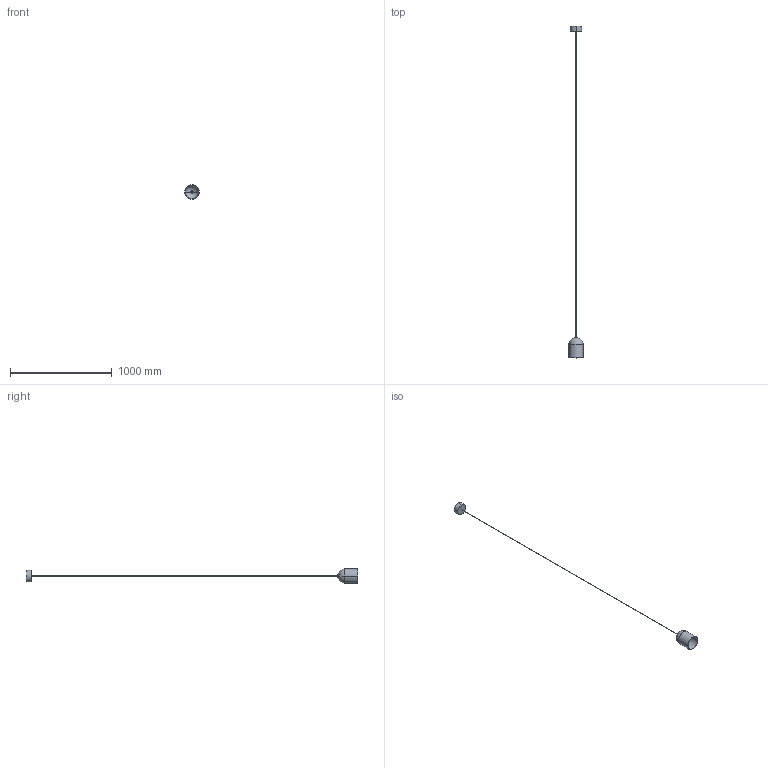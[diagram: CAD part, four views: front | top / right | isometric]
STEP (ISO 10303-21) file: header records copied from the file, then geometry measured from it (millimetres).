
FILE_DESCRIPTION (( 'STEP AP214' ), '1' );
FILE_NAME ('COPO_CU1085.STEP', '2026-06-05T07:31:10', ( '' ), ( '' ), 'SwSTEP 2.0', 'SolidWorks 2023', '' );
FILE_SCHEMA (( 'AUTOMOTIVE_DESIGN' ));
Length unit declared in the file: inch
Products named in the file (1): COPO_CU1085
Bounding box: 140 x 3260.04 x 140 mm (x, y, z)
Volume: 753993 mm3; surface area: 237913.8 mm2
Topology: 4 solids, 4 shells, 24 faces, 48 edges, 30 vertices
Faces by surface type: cylinder 12, plane 8, sphere 4
Entity records: 636 total; most frequent: DIRECTION 118, CARTESIAN_POINT 91, ORIENTED_EDGE 80, AXIS2_PLACEMENT_3D 53, EDGE_CURVE 40, CIRCLE 28, VERTEX_POINT 26, EDGE_LOOP 26
